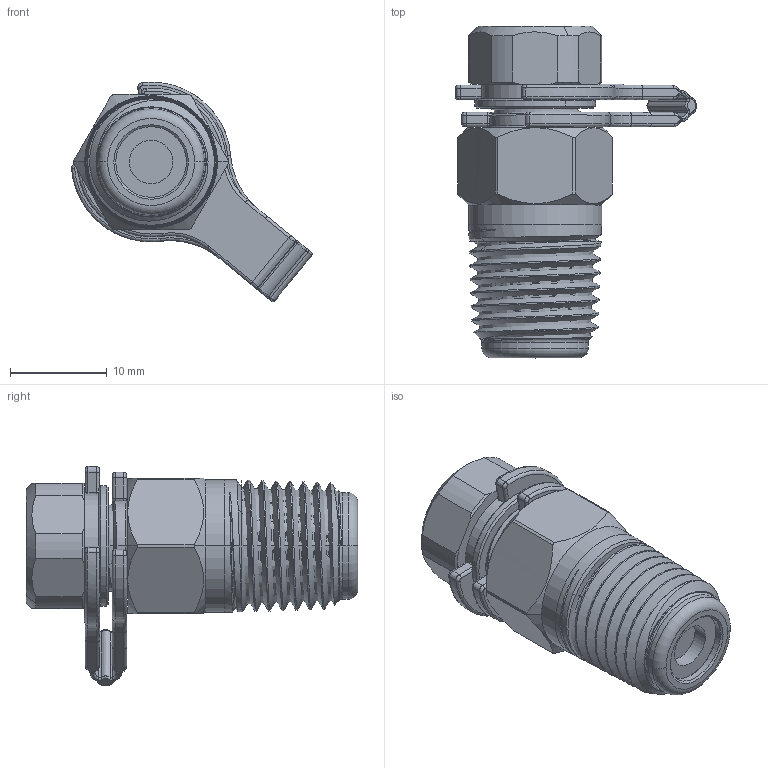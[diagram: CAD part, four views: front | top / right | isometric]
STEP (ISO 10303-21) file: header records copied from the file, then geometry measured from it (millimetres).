
FILE_DESCRIPTION((''),'2;1');
FILE_NAME('T90G_1-4NPT_25126_ASM','2026-05-07T14:35:29',('alessio.piazza'),(''),'CREO PARAMETRIC BY PTC INC, 2025183','CREO PARAMETRIC BY PTC INC, 2025183','');
FILE_SCHEMA(('CONFIG_CONTROL_DESIGN'));
Length unit declared in the file: millimetre
Products named in the file (6): 23142_RIBATTUTO; 23143; 23178; 23179; 13054_AF1; T90G_1-4NPT_25126_ASM
Assembly tree (6 placements, depth 2):
  T90G_1-4NPT_25126_ASM
    23142_RIBATTUTO
    23143  x2
    23178
    23179
    13054_AF1
Bounding box: 24.9 x 34.3 x 22.71 mm (x, y, z)
Volume: 4663.3 mm3; surface area: 6117.2 mm2
Topology: 6 solids, 9 shells, 346 faces, 823 edges, 502 vertices
Faces by surface type: bspline 142, cylinder 74, cone 58, plane 48, torus 24
Entity records: 19551 total; most frequent: CARTESIAN_POINT 12617, ORIENTED_EDGE 1594, DIRECTION 1091, EDGE_CURVE 803, VERTEX_POINT 490, AXIS2_PLACEMENT_3D 446, B_SPLINE_CURVE_WITH_KNOTS 368, EDGE_LOOP 351
